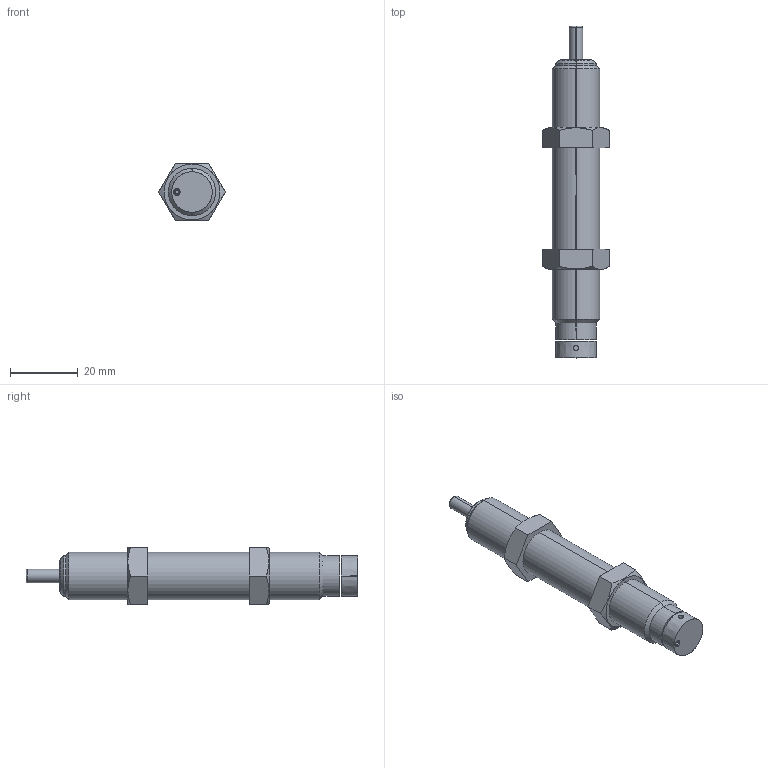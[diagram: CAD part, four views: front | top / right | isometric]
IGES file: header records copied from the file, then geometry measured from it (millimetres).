
Start section: SolidWorks IGES file using analytic representation for surfaces
Bounding box: 19.63 x 98.2 x 17 mm (x, y, z)
Surface area: 6028.9 mm2 (no closed solid volume)
Topology: 0 solids, 0 shells, 70 faces, 1070 edges, 1070 vertices
Faces by surface type: bspline 38, revolution 32
